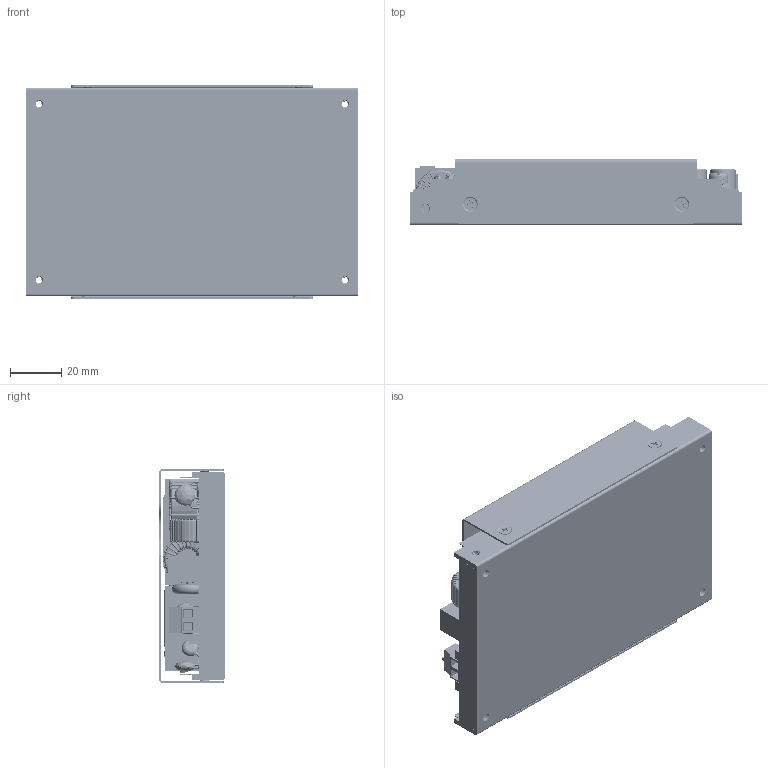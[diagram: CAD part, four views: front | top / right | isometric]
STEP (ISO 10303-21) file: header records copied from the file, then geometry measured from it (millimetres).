
FILE_DESCRIPTION (( 'STEP AP214' ), '1' );
FILE_NAME ('LFM420S(M)XXX-C0.STEP', '2024-07-02T00:41:27', ( 'cincon' ), ( '' ), 'SwSTEP 2.0', 'SolidWorks 2020', '' );
FILE_SCHEMA (( 'AUTOMOTIVE_DESIGN' ));
Length unit declared in the file: millimetre
Products named in the file (1): LFM420S(M)XXX-C0
Bounding box: 129.4 x 25.7 x 83.52 mm (x, y, z)
Volume: 183408.4 mm3; surface area: 83147.8 mm2
Topology: 34 solids, 43 shells, 3303 faces, 9124 edges, 5621 vertices
Faces by surface type: cylinder 1624, plane 790, torus 684, bspline 121, cone 84
Entity records: 180523 total; most frequent: CARTESIAN_POINT 63963, ORIENTED_EDGE 17820, DIRECTION 16158, EDGE_CURVE 8910, AXIS2_PLACEMENT_3D 6395, VERTEX_POINT 5647, EDGE_LOOP 3461, LINE 3368
